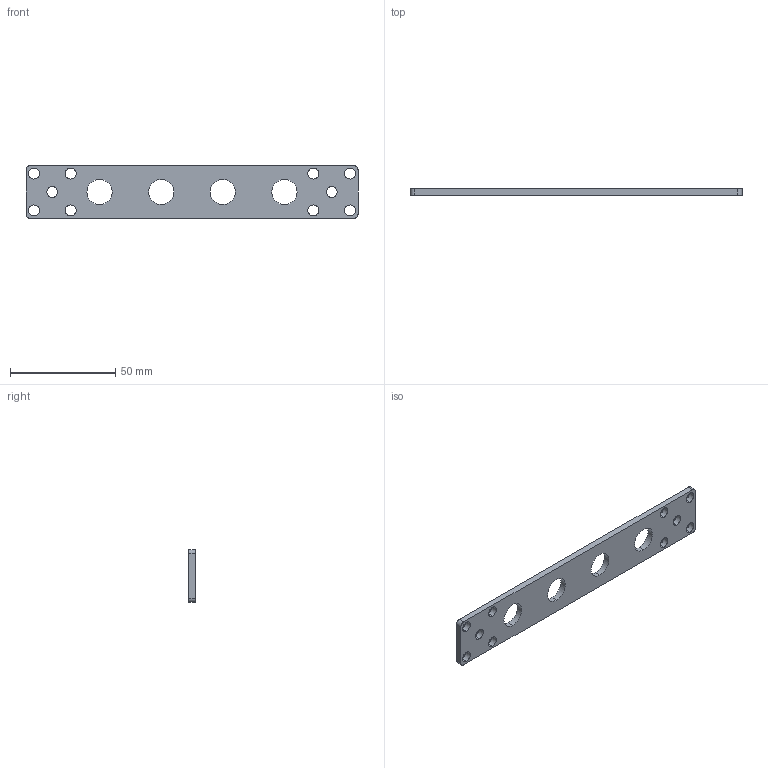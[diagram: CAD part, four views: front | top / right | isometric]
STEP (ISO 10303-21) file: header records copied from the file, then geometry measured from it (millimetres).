
FILE_DESCRIPTION (( 'STEP AP214' ), '1' );
FILE_NAME ('SMBD2-13025.STEP', '2019-10-31T07:23:00', ( '微软用户' ), ( '微软中国' ), 'SwSTEP 2.0', 'SolidWorks 2016', '' );
FILE_SCHEMA (( 'AUTOMOTIVE_DESIGN' ));
Length unit declared in the file: millimetre
Products named in the file (1): SMBD2-13025
Bounding box: 158 x 3 x 25 mm (x, y, z)
Volume: 9845.4 mm3; surface area: 8593.8 mm2
Topology: 1 solids, 1 shells, 38 faces, 108 edges, 72 vertices
Faces by surface type: cylinder 32, plane 6
Entity records: 1366 total; most frequent: DIRECTION 250, CARTESIAN_POINT 219, ORIENTED_EDGE 216, EDGE_CURVE 108, AXIS2_PLACEMENT_3D 103, VERTEX_POINT 72, EDGE_LOOP 66, CIRCLE 64
